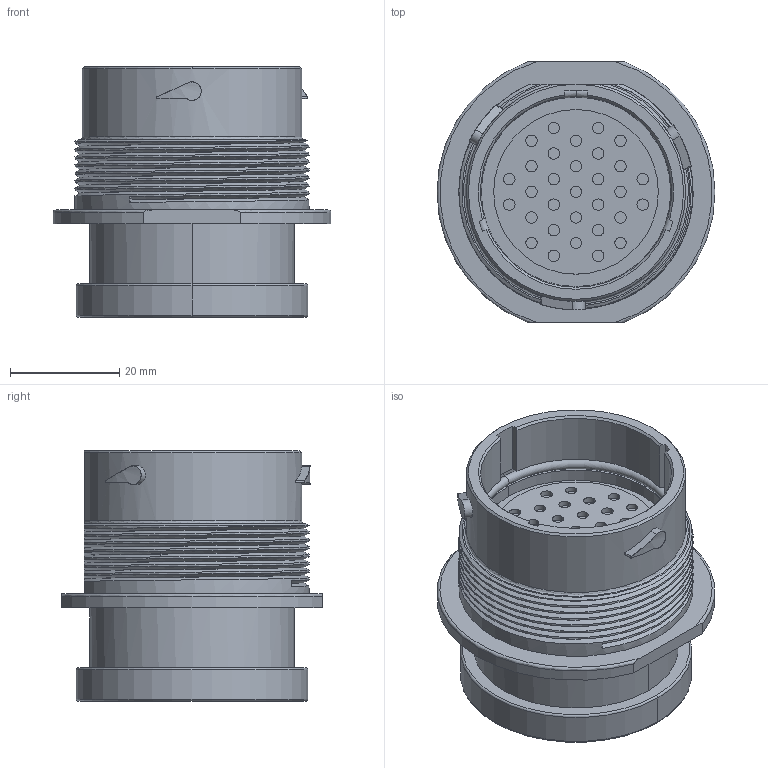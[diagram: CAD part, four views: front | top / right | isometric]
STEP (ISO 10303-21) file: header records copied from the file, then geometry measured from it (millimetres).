
FILE_DESCRIPTION((''),'2;1');
FILE_NAME('C-HDP24-24-31PT-L017','2013-05-09T',('workeradm'),('Tyco Electronics Ltd.'),'PRO/ENGINEER BY PARAMETRIC TECHNOLOGY CORPORATION, 2011490','PRO/ENGINEER BY PARAMETRIC TECHNOLOGY CORPORATION, 2011490','');
FILE_SCHEMA(('AUTOMOTIVE_DESIGN { 1 0 10303 214 1 1 1 1 }'));
Length unit declared in the file: millimetre
Products named in the file (1): C-HDP24-24-31PT-L017
Bounding box: 50.8 x 47.62 x 45.77 mm (x, y, z)
Volume: 42917.9 mm3; surface area: 15072.8 mm2
Topology: 1 solids, 1 shells, 533 faces, 1131 edges, 705 vertices
Faces by surface type: cylinder 229, torus 137, plane 122, bspline 39, cone 6
Entity records: 35110 total; most frequent: CARTESIAN_POINT 23006, DIRECTION 2707, ORIENTED_EDGE 2262, AXIS2_PLACEMENT_3D 1207, EDGE_CURVE 1131, CIRCLE 713, VERTEX_POINT 705, EDGE_LOOP 638
